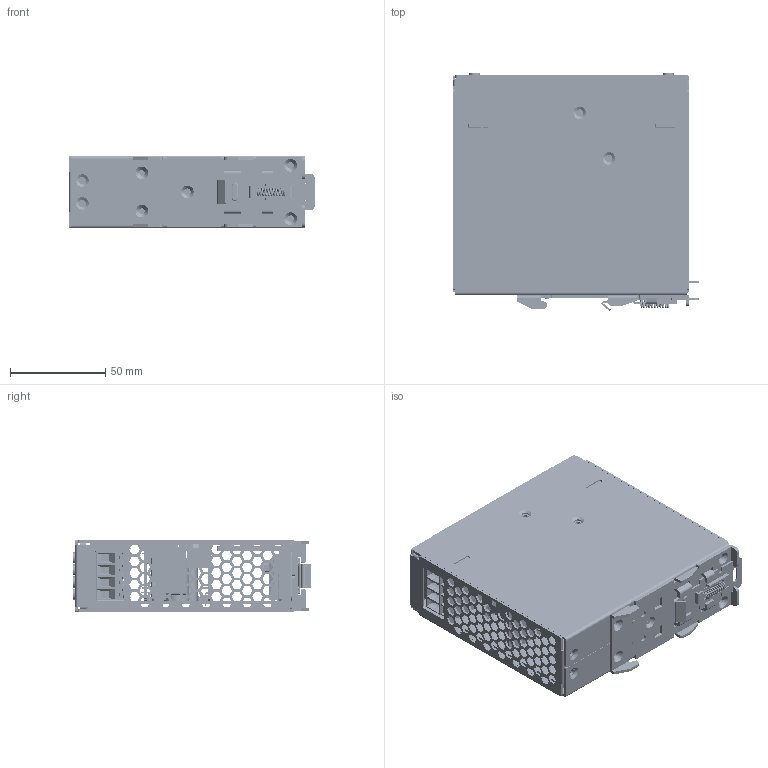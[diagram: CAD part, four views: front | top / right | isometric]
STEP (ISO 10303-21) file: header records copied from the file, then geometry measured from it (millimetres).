
FILE_DESCRIPTION((''),'2;1');
FILE_NAME('DRU-24V20AMA_ASM','2020-12-29T',('ROCK.WEN'),(''),'PRO/ENGINEER BY PARAMETRIC TECHNOLOGY CORPORATION, 2015240','PRO/ENGINEER BY PARAMETRIC TECHNOLOGY CORPORATION, 2015240','');
FILE_SCHEMA(('CONFIG_CONTROL_DESIGN','SHAPE_APPEARANCE_LAYERS_GROUPS'));
Products named in the file (85): DRU-24V40AMA_PWB; DINKLE_0177-3108; HSK6; PIN; Q701; SCREW_11; NUT; PIN_L_1; HSK6_ASM; PRT0004; PRT0005; PRT0006; CO-T000-00H0-01-1-SOLID1; PRT0007; PRT0008; PRT0009; PRT0010; PRT0011; PRT0012; TDM-04H1_ASM; Y900A-R3CJ1-T1-04M-55_ASM; PRT0003; TER-F000-00H1-1-SOLID5; BA-F000-000B-02-1-SOLID1; TER-F000-00H1-1-SOLID2; TER-F000-00H1-1-SOLID1; TER-F000-00H1-1-SOLID4; TER-F000-00H1-1-SOLID3; RO-S0DR-0000-01-1-SOLID1; BC-T000-00H0-01_H_-2-SOLID1; FDR-10H1_ASM; Y900A-R7J-T1-12-2_54-55__ASM; DRU-24V20AMA_PWB_ASM; EDC-0089; HS203_40A; NMOS_242002881263; SCREW_8; HS203_40A_ASM; A2541WX0-2X11PA-6T_3; PRT0001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
Assembly tree (194 placements, depth 6):
  DRU-24V20AMA_ASM
    PWB_40A_ASM
      DRU-24V20AMA_PWB_ASM
        DRU-24V40AMA_PWB
        DINKLE_0177-3108
        HSK6_ASM
          HSK6
          PIN
          Q701
          SCREW_11
          NUT
          PIN_L_1
        Y900A-R3CJ1-T1-04M-55_ASM
          TDM-04H1_ASM
            PRT0004
            PRT0005
            PRT0006
            CO-T000-00H0-01-1-SOLID1
            PRT0007
            PRT0008
            PRT0009
            PRT0010
            PRT0011
            PRT0012
        Y900A-R7J-T1-12-2_54-55__ASM
          FDR-10H1_ASM
            PRT0003
            TER-F000-00H1-1-SOLID5
            BA-F000-000B-02-1-SOLID1
            TER-F000-00H1-1-SOLID2
            TER-F000-00H1-1-SOLID1
            TER-F000-00H1-1-SOLID4
            TER-F000-00H1-1-SOLID3
            RO-S0DR-0000-01-1-SOLID1
            BC-T000-00H0-01_H_-2-SOLID1
      EDC-0089_ASM
        EDC-0089
        HS203_40A_ASM
          HS203_40A
          NMOS_242002881263  x4
          PIN
          SCREW_8  x4
          NUT  x4
        A2541WR0-2PX11PA-6T_ASM
          A2541WX0-2X11PA-6T_3
          PRT0001  x11
          PRT0002  x11
      EDC-0090_ASM
        EDC-0090
        MH150-635M804A303-20180918_ASM
          PRT0014
          PRT0015
          PRT0016
          PRT0017
          PRT0018
        MH150-635M802A303_ASM
          MH150-635M802A303
          PRT0015  x2
        CP3504P1H00-NH_ASM
          ASM0001_ASM
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Bounding box: 129 x 124.86 x 38 mm (x, y, z)
Volume: 165411.1 mm3; surface area: 238023.7 mm2
Topology: 214 solids, 214 shells, 11677 faces, 31105 edges, 20009 vertices
Faces by surface type: plane 8592, cylinder 2415, extrusion 318, cone 147, torus 135, bspline 62, sphere 8
Entity records: 308453 total; most frequent: CARTESIAN_POINT 62670, ORIENTED_EDGE 46160, DIRECTION 43338, EDGE_CURVE 23080, VECTOR 17974, LINE 17656, VERTEX_POINT 15025, AXIS2_PLACEMENT_3D 12682
